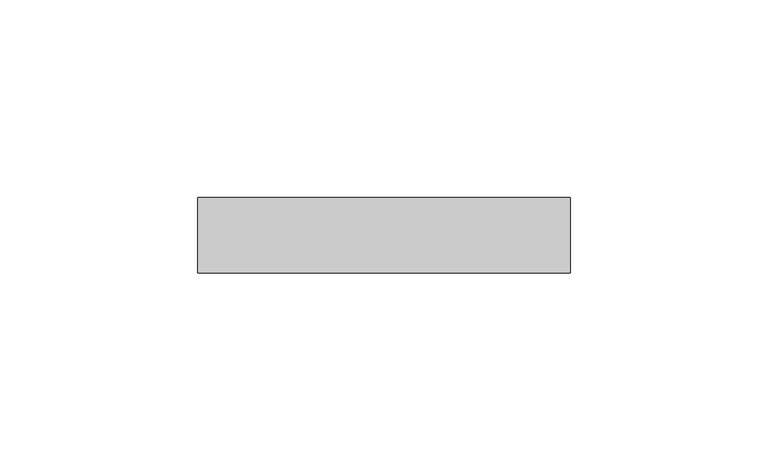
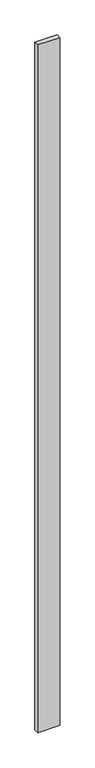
"""IFC4 building model written with IfcOpenShell, lengths in millimetres: proxy geometry, Connection-Corner-Teknion-Altos-Three_Way_FKCH180 : 180º Connection."""

from ifc_helpers import new_model, si_unit, origin, origin_with_axes, place, context, project, spatial, polyline, outline, extrude, source, transform, mapped, element, save


def specialty_equipment_0dd9da7d(model_context):
    return source(origin(), model_context, "Body", "SweptSolid", [
        extrude(outline(polyline([(-46.9937529, -30.9381563), (47.0062471, -30.9381563), (47.0062471, -49.9881563), (-46.9937529, -49.9881563), (-46.9937529, -30.9381563)])), origin_with_axes(), (0.0, 0.0, 1.0), 3048.0),
    ])


if __name__ == "__main__":
    model = new_model("IFC4")
    model_context = context("Model", 3, world=origin())
    ifc_project = project(units=[si_unit("LENGTHUNIT", "METRE", prefix="MILLI")], contexts=[model_context])
    site = spatial("IfcSite", under=ifc_project)
    building = spatial("IfcBuilding", under=site)
    placement = place(None, origin())
    specialty_equipment_shape = specialty_equipment_0dd9da7d(model_context)
    element("IfcBuildingElementProxy", 1, Name="Connection-Corner-Teknion-Altos-Three_Way_FKCH180 : 180º Connection", ObjectType="Connection-Corner-Teknion-Altos-Three_Way_FKCH180 : 180º Connection", at=placement, inside=building, context=model_context, shape_type="MappedRepresentation", body=[
        mapped(specialty_equipment_shape, transform((0.0, 0.0, 0.0), x_axis=(1.0, 0.0, 0.0), y_axis=(0.0, 1.0, 0.0), z_axis=(0.0, 0.0, 1.0))),
    ])
    save(model, "model.ifc")
